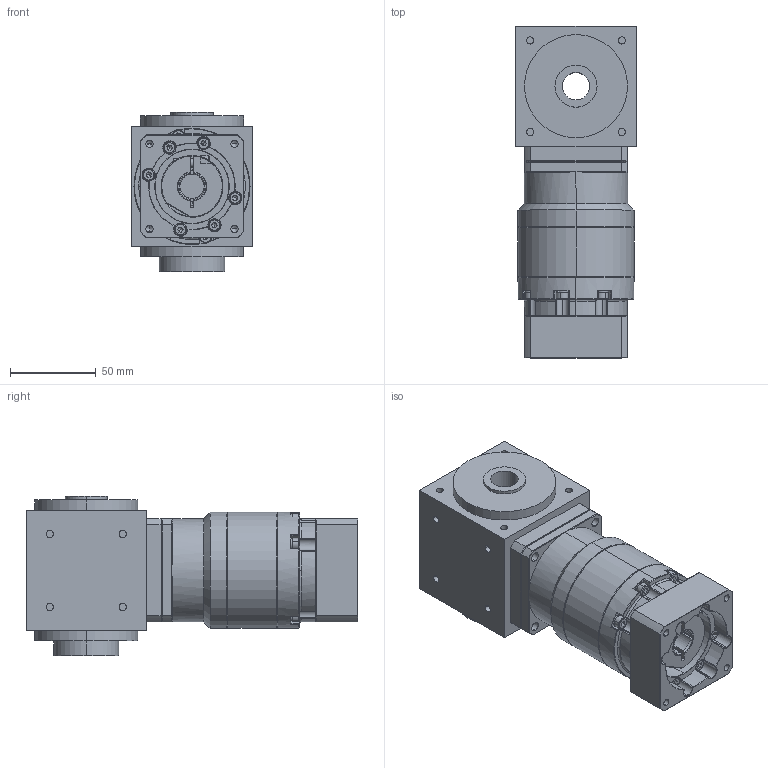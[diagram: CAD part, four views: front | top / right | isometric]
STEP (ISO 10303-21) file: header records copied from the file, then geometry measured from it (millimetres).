
FILE_DESCRIPTION (( 'STEP AP203' ), '1' );
FILE_NAME ('AAW070AS-L2-RF 14-50-70-M5.STEP', '2024-12-23T08:36:13', ( '' ), ( '' ), 'SwSTEP 2.0', 'SolidWorks 2021', '' );
FILE_SCHEMA (( 'CONFIG_CONTROL_DESIGN' ));
Length unit declared in the file: millimetre
Products named in the file (3): AAW070AS-L1-RF 14-50-70-M5; VRB-060-L2-S2-P1 14-50-70-M5; AAW070AS-L2-RF 14-50-70-M5
Assembly tree (2 placements, depth 2):
  AAW070AS-L2-RF 14-50-70-M5
    AAW070AS-L1-RF 14-50-70-M5
    VRB-060-L2-S2-P1 14-50-70-M5
Bounding box: 70 x 193 x 92.5 mm (x, y, z)
Volume: 661346 mm3; surface area: 117958.9 mm2
Topology: 33 solids, 33 shells, 1064 faces, 2561 edges, 1593 vertices
Faces by surface type: plane 420, cylinder 386, cone 196, torus 50, bspline 12
Entity records: 31808 total; most frequent: CARTESIAN_POINT 6456, DIRECTION 5572, ORIENTED_EDGE 5026, EDGE_CURVE 2513, AXIS2_PLACEMENT_3D 2230, VERTEX_POINT 1593, EDGE_LOOP 1188, CIRCLE 1173
